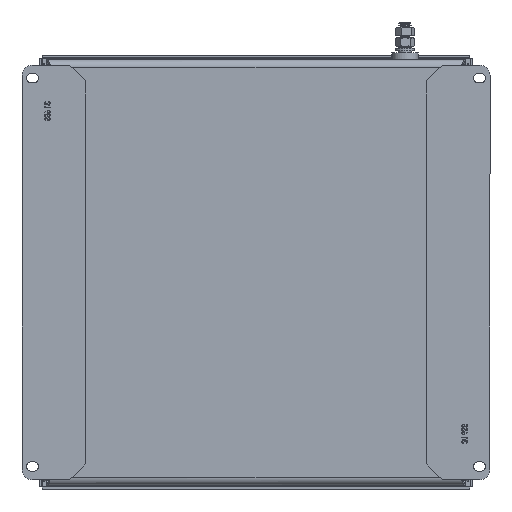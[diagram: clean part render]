
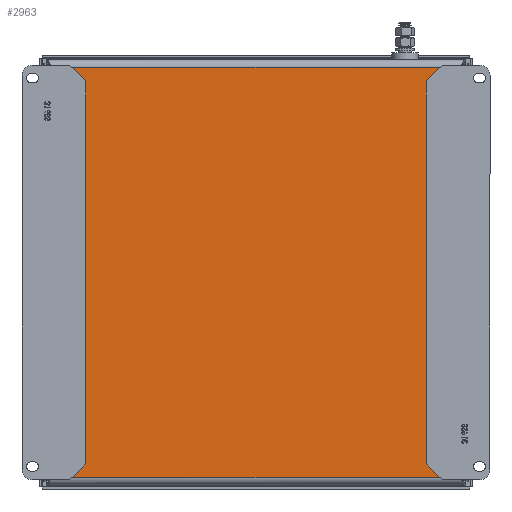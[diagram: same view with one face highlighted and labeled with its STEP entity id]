
A CAD part, front view. The second image highlights one B-rep face of the part: STEP entity #2963.
In plain terms, the highlighted planar face has unit normal (0, -1, 0).
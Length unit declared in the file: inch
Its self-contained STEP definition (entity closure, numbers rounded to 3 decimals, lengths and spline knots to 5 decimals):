
#776 = EDGE_CURVE ( 'NONE', #22888, #23207, #6692, .T. ) ;
#781 = EDGE_CURVE ( 'NONE', #23207, #22959, #6948, .T. ) ;
#842 = EDGE_CURVE ( 'NONE', #23087, #22888, #7017, .T. ) ;
#866 = EDGE_CURVE ( 'NONE', #22959, #23087, #7051, .T. ) ;
#2963 = ADVANCED_FACE ( 'NONE', ( #25066 ), #3582, .F. ) ;
#3575 = DIRECTION ( 'NONE',  ( 0., 0., 1. ) ) ;
#3576 = DIRECTION ( 'NONE',  ( 0., 1., 0. ) ) ;
#3580 = CARTESIAN_POINT ( 'NONE',  ( 4.931, 0., 4.931 ) ) ;
#3582 = PLANE ( 'NONE',  #14067 ) ;
#5871 = ORIENTED_EDGE ( 'NONE', *, *, #781, .T. ) ;
#5872 = ORIENTED_EDGE ( 'NONE', *, *, #776, .T. ) ;
#5873 = ORIENTED_EDGE ( 'NONE', *, *, #842, .T. ) ;
#5874 = ORIENTED_EDGE ( 'NONE', *, *, #866, .T. ) ;
#6692 = LINE ( 'NONE', #22782, #6693 ) ;
#6693 = VECTOR ( 'NONE', #22778, 39.37008 ) ;
#6948 = LINE ( 'NONE', #22758, #6949 ) ;
#6949 = VECTOR ( 'NONE', #22754, 39.37008 ) ;
#7017 = LINE ( 'NONE', #22440, #7026 ) ;
#7026 = VECTOR ( 'NONE', #22433, 39.37008 ) ;
#7051 = LINE ( 'NONE', #9267, #7052 ) ;
#7052 = VECTOR ( 'NONE', #8825, 39.37008 ) ;
#8335 = CARTESIAN_POINT ( 'NONE',  ( -4.822, 0., 4.822 ) ) ;
#8825 = DIRECTION ( 'NONE',  ( 0., 0., 1. ) ) ;
#9267 = CARTESIAN_POINT ( 'NONE',  ( 4.822, 0., -4.90316 ) ) ;
#14067 = AXIS2_PLACEMENT_3D ( 'NONE', #3580, #3576, #3575 ) ;
#15355 = CARTESIAN_POINT ( 'NONE',  ( 4.822, 0., -4.822 ) ) ;
#15368 = CARTESIAN_POINT ( 'NONE',  ( 4.822, 0., 4.822 ) ) ;
#15483 = CARTESIAN_POINT ( 'NONE',  ( -4.822, 0., -4.822 ) ) ;
#16761 = EDGE_LOOP ( 'NONE', ( #5874, #5873, #5872, #5871 ) ) ;
#22433 = DIRECTION ( 'NONE',  ( -1., 0., 0. ) ) ;
#22440 = CARTESIAN_POINT ( 'NONE',  ( 4.90316, 0., 4.822 ) ) ;
#22754 = DIRECTION ( 'NONE',  ( 1., 0., 0. ) ) ;
#22758 = CARTESIAN_POINT ( 'NONE',  ( -4.90316, 0., -4.822 ) ) ;
#22778 = DIRECTION ( 'NONE',  ( 0., 0., -1. ) ) ;
#22782 = CARTESIAN_POINT ( 'NONE',  ( -4.822, 0., 4.90316 ) ) ;
#22888 = VERTEX_POINT ( 'NONE', #8335 ) ;
#22959 = VERTEX_POINT ( 'NONE', #15355 ) ;
#23087 = VERTEX_POINT ( 'NONE', #15368 ) ;
#23207 = VERTEX_POINT ( 'NONE', #15483 ) ;
#25066 = FACE_OUTER_BOUND ( 'NONE', #16761, .T. ) ;
